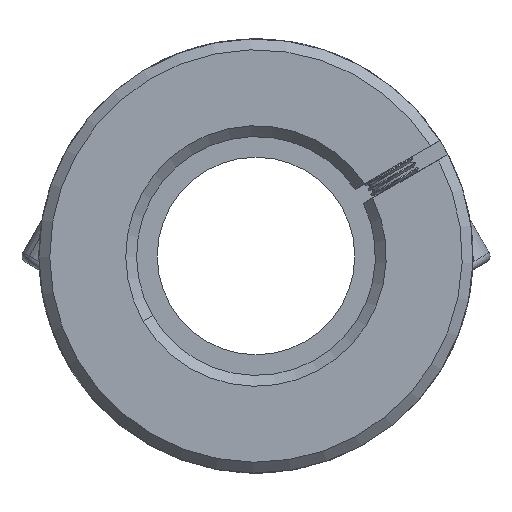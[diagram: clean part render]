
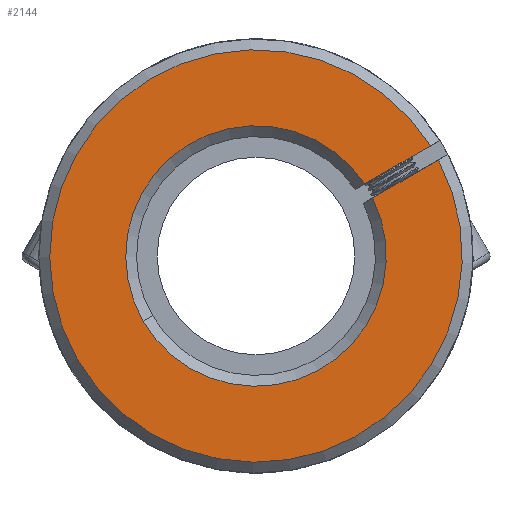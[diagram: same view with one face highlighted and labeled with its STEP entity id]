
A CAD part, front view. The second image highlights one B-rep face of the part: STEP entity #2144.
In plain terms, the highlighted planar face has unit normal (0, -1, 0).
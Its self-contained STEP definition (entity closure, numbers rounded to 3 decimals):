
#67 = DIRECTION ( 'NONE',  ( 0.5, 0., -0.866 ) ) ;
#355 = CARTESIAN_POINT ( 'NONE',  ( 7.68, -31.239, 46.14 ) ) ;
#500 = DIRECTION ( 'NONE',  ( 0.5, 0., -0.866 ) ) ;
#651 = EDGE_CURVE ( 'NONE', #1185, #1653, #5242, .T. ) ;
#806 = ORIENTED_EDGE ( 'NONE', *, *, #9363, .T. ) ;
#1174 = AXIS2_PLACEMENT_3D ( 'NONE', #5016, #5966, #10265 ) ;
#1185 = VERTEX_POINT ( 'NONE', #1537 ) ;
#1537 = CARTESIAN_POINT ( 'NONE',  ( 9.298, -31.239, 45.342 ) ) ;
#1653 = VERTEX_POINT ( 'NONE', #8961 ) ;
#1865 = ORIENTED_EDGE ( 'NONE', *, *, #9501, .F. ) ;
#1998 = DIRECTION ( 'NONE',  ( 0.866, 0., 0.5 ) ) ;
#2028 = CIRCLE ( 'NONE', #12062, 19. ) ;
#2053 = CIRCLE ( 'NONE', #6458, 12. ) ;
#2144 = ADVANCED_FACE ( 'NONE', ( #4867 ), #10356, .F. ) ;
#2229 = DIRECTION ( 'NONE',  ( 0.5, 0., -0.866 ) ) ;
#3399 = VERTEX_POINT ( 'NONE', #9188 ) ;
#3690 = EDGE_CURVE ( 'NONE', #3399, #1653, #2028, .T. ) ;
#3871 = EDGE_CURVE ( 'NONE', #10307, #10343, #13427, .T. ) ;
#3878 = ORIENTED_EDGE ( 'NONE', *, *, #651, .F. ) ;
#4215 = CARTESIAN_POINT ( 'NONE',  ( -11.837, -31.239, 33.997 ) ) ;
#4867 = FACE_OUTER_BOUND ( 'NONE', #5697, .T. ) ;
#5016 = CARTESIAN_POINT ( 'NONE',  ( 52.98, -31.239, 45.743 ) ) ;
#5242 = LINE ( 'NONE', #9659, #6077 ) ;
#5384 = DIRECTION ( 'NONE',  ( 0., 1., 0. ) ) ;
#5697 = EDGE_LOOP ( 'NONE', ( #3878, #806, #8998, #1865, #10562 ) ) ;
#5947 = CARTESIAN_POINT ( 'NONE',  ( -1.447, -31.239, 40. ) ) ;
#5966 = DIRECTION ( 'NONE',  ( 0., 1., 0. ) ) ;
#6077 = VECTOR ( 'NONE', #1998, 1000. ) ;
#6458 = AXIS2_PLACEMENT_3D ( 'NONE', #13900, #5384, #67 ) ;
#8236 = AXIS2_PLACEMENT_3D ( 'NONE', #5947, #9079, #500 ) ;
#8615 = CARTESIAN_POINT ( 'NONE',  ( -1.447, -31.239, 40. ) ) ;
#8679 = CARTESIAN_POINT ( 'NONE',  ( 8.548, -31.239, 46.641 ) ) ;
#8961 = CARTESIAN_POINT ( 'NONE',  ( 15.367, -31.239, 48.848 ) ) ;
#8998 = ORIENTED_EDGE ( 'NONE', *, *, #3871, .T. ) ;
#9079 = DIRECTION ( 'NONE',  ( 0., 1., 0. ) ) ;
#9188 = CARTESIAN_POINT ( 'NONE',  ( 14.616, -31.239, 50.147 ) ) ;
#9363 = EDGE_CURVE ( 'NONE', #1185, #10307, #2053, .T. ) ;
#9501 = EDGE_CURVE ( 'NONE', #3399, #10343, #9619, .T. ) ;
#9619 = LINE ( 'NONE', #355, #12122 ) ;
#9659 = CARTESIAN_POINT ( 'NONE',  ( 8.431, -31.239, 44.841 ) ) ;
#9681 = DIRECTION ( 'NONE',  ( 0., -1., 0. ) ) ;
#10265 = DIRECTION ( 'NONE',  ( 0.5, 0., -0.866 ) ) ;
#10307 = VERTEX_POINT ( 'NONE', #4215 ) ;
#10343 = VERTEX_POINT ( 'NONE', #8679 ) ;
#10356 = PLANE ( 'NONE',  #1174 ) ;
#10562 = ORIENTED_EDGE ( 'NONE', *, *, #3690, .T. ) ;
#12062 = AXIS2_PLACEMENT_3D ( 'NONE', #8615, #9681, #2229 ) ;
#12122 = VECTOR ( 'NONE', #12147, 1000. ) ;
#12147 = DIRECTION ( 'NONE',  ( -0.866, 0., -0.5 ) ) ;
#13427 = CIRCLE ( 'NONE', #8236, 12. ) ;
#13900 = CARTESIAN_POINT ( 'NONE',  ( -1.447, -31.239, 40. ) ) ;
